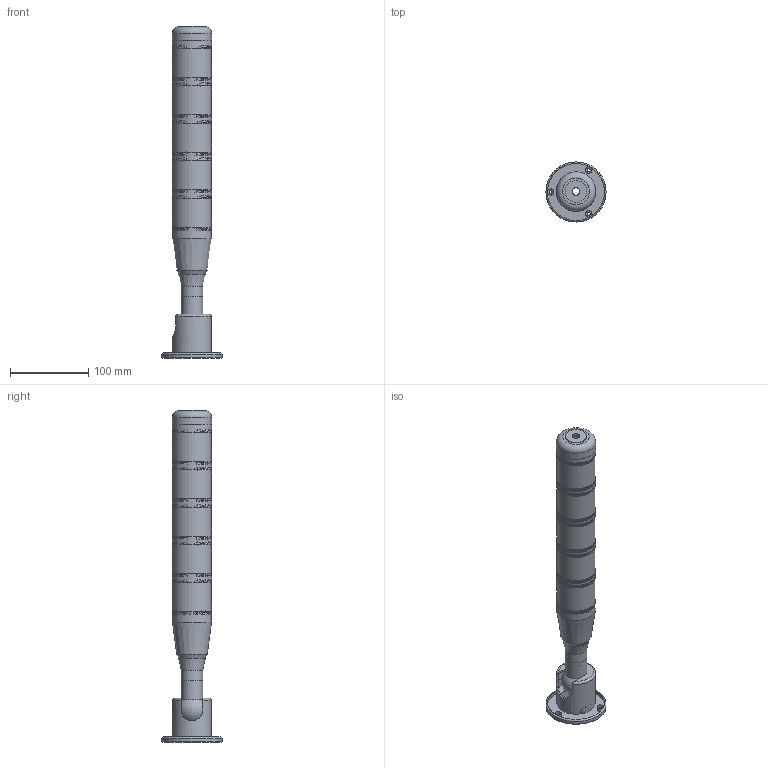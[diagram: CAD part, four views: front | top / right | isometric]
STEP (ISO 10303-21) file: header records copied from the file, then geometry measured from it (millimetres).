
FILE_DESCRIPTION(/* description */ (''),/* implementation_level */ '2;1');
FILE_NAME(/* name */ 'OLE2-501 带蜂鸣.stp',/* time_stamp */ '2022-12-13T18:06:32+08:00',/* author */ (''),/* organization */ (''),/* preprocessor_version */ 'ST-DEVELOPER v16.7',/* originating_system */ 'SIEMENS PLM Software NX 12.0',/* authorisation */ '');
FILE_SCHEMA (('AUTOMOTIVE_DESIGN { 1 0 10303 214 3 1 1 1 }'));
Products named in the file (1): Admi15EC76A1t4jc
Bounding box: 77 x 77 x 425.5 mm (x, y, z)
Volume: 212964.3 mm3; surface area: 206405.2 mm2
Topology: 17 solids, 19 shells, 2571 faces, 6206 edges, 4138 vertices
Faces by surface type: plane 2341, cylinder 128, bspline 75, cone 21, torus 4, sphere 2
Full cylindrical faces by diameter (mm): 4 x3, 8 x3, 10 x1, 17.5 x1, 18 x2, 21.5 x1, 22 x1, 23.5 x1, 24.3 x10, 28 x3, 32 x5, 34 x1, 38 x1, 42 x1, 43 x3, 44.2 x5, 45 x1, 46 x6, 46.3 x5, 47 x1, 48 x1, 50 x7, 50.3 x6, 77 x1
Entity records: 103527 total; most frequent: CARTESIAN_POINT 46778, ORIENTED_EDGE 11982, DIRECTION 9941, EDGE_CURVE 5991, LINE 4591, VECTOR 4591, VERTEX_POINT 4029, EDGE_LOOP 3132
